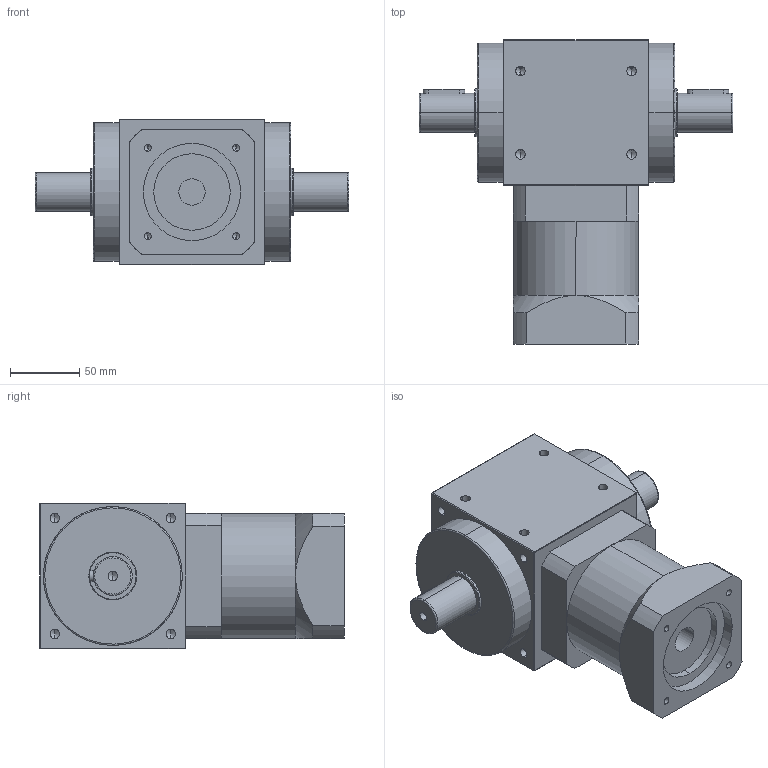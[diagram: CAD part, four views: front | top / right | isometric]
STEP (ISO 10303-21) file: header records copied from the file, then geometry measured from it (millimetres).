
FILE_DESCRIPTION (( 'STEP AP214' ), '1' );
FILE_NAME ('RXW105A-L2-2P--16-80-100-M6.STEP', '2020-12-05T08:32:47', ( '微软用户' ), ( '微软中国' ), 'SwSTEP 2.0', 'SolidWorks 2014', '' );
FILE_SCHEMA (( 'AUTOMOTIVE_DESIGN' ));
Length unit declared in the file: millimetre
Products named in the file (2): RXW105A-L2-2P--16-80-100-M6
Bounding box: 226 x 219 x 105 mm (x, y, z)
Volume: 2239661.7 mm3; surface area: 153900.4 mm2
Topology: 2 solids, 2 shells, 218 faces, 514 edges, 278 vertices
Faces by surface type: cylinder 86, cone 64, plane 60, bspline 8
Entity records: 7990 total; most frequent: CARTESIAN_POINT 1420, DIRECTION 1038, ORIENTED_EDGE 924, EDGE_CURVE 462, AXIS2_PLACEMENT_3D 400, VERTEX_POINT 278, EDGE_LOOP 256, VECTOR 238
